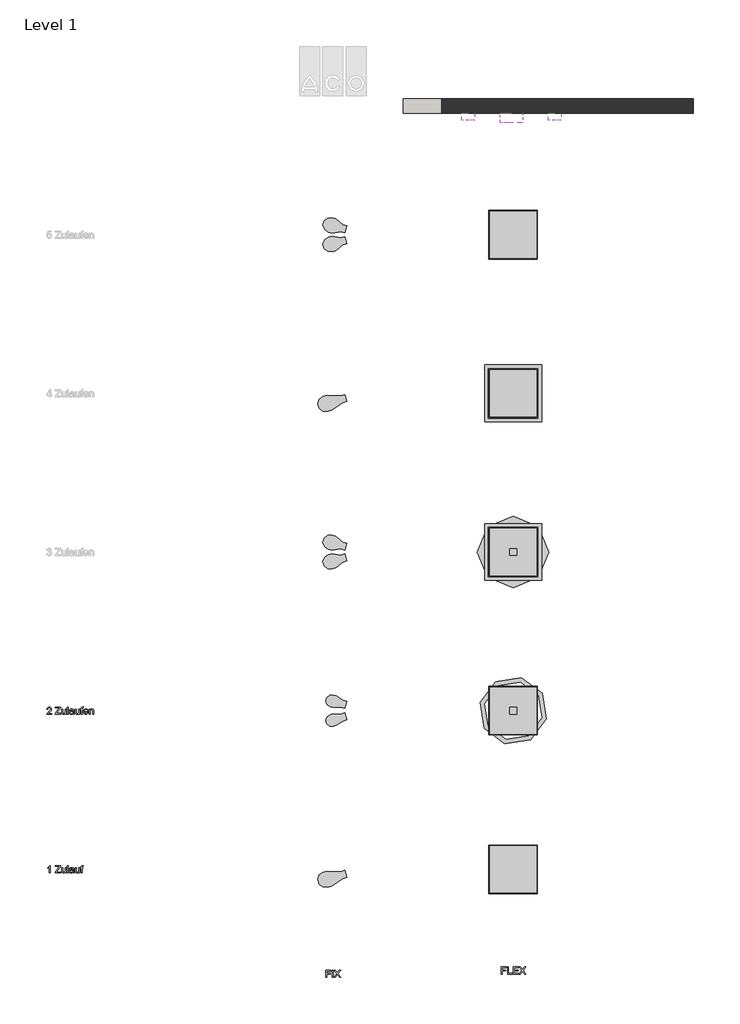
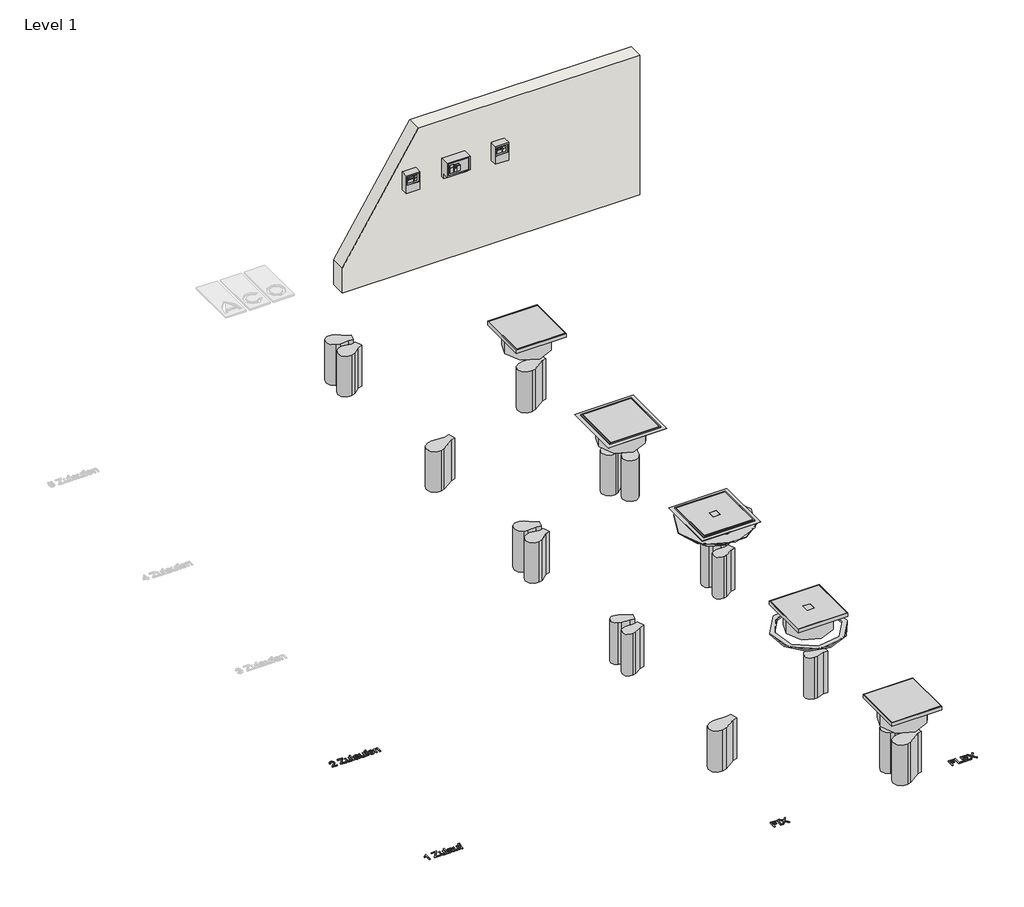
# One storey, part 1 of 2: 23 unitary equipment elements, 4 proxies, 3 electric distribution boards, 1 wall.
"""IFC4 building model written with IfcOpenShell, lengths in millimetres."""

from ifc_helpers import new_model, si_unit, frame, origin, origin_with_axes, place, context, project, spatial, polyline, outline, extrude, transform, mapped, element, save
from components import electric_distribution_board_6bfaa667, duo_03331a0b, std_nested_5e5e7294, std_nested_2262afc0, std_nested_d96b53c7, std_nested_3f7b8610, std_nested_a3c687c5, std_nested_62343fa4, std_nested_5edb1bc4, std_nested_ef40863d, std_nested_00d3e785, std_nested_2ecfbaac, std_nested_c9297620, std_nested_613c7ef1

model = new_model("IFC4")

# Units and contexts
model_context = context("Model", 3, world=origin())
ifc_project = project(units=[si_unit("LENGTHUNIT", "METRE", prefix="MILLI")], contexts=[model_context])

# Site, building, storey
site = spatial("IfcSite", under=ifc_project)
building = spatial("IfcBuilding", under=site)
storey = spatial("IfcBuildingStorey", under=building, Name="Level 1", Elevation=0.0)

# Proxies
placement = place(None, origin())
element("IfcBuildingElementProxy", 1, Name="100mm ACO", ObjectType="100mm ACO", at=placement, inside=storey, context=model_context, shape_type="SweptSolid", body=[
    extrude(outline(polyline([(-2918.8676439, 400.0), (-2931.9063734, 400.0), (-2931.9063734, 478.2323775), (-2956.1211569, 463.3309722), (-2956.1211569, 472.6443505), (-2937.741787, 484.4315949), (-2926.3183465, 498.7218097), (-2918.8676439, 498.7218097), (-2918.8676439, 400.0)])), origin_with_axes(), (0.0, 0.0, 1.0), 10.0),
    extrude(outline(polyline([(-2773.5789428, 400.0), (-2853.673996, 400.0), (-2853.673996, 411.7290358), (-2801.8683293, 477.242831), (-2798.2157388, 481.8122072), (-2791.3907788, 489.4084314), (-2848.085969, 489.4084314), (-2848.085969, 500.5844853), (-2775.4416185, 500.5844853), (-2775.4416185, 489.4084314), (-2832.1950173, 418.5103393), (-2838.2778175, 411.1760539), (-2773.5789428, 411.1760539), (-2773.5789428, 400.0)])), origin_with_axes(), (0.0, 0.0, 1.0), 10.0),
    extrude(outline(polyline([(-2700.9345923, 400.0), (-2712.1106463, 400.0), (-2712.1106463, 410.5648635), (-2722.413571, 401.2442091), (-2735.4523005, 398.1373243), (-2749.6552024, 401.6734977), (-2758.3573902, 411.4088884), (-2760.5402133, 427.5035702), (-2760.5402133, 472.6443505), (-2747.5014837, 472.6443505), (-2747.5014837, 431.4326517), (-2746.5992502, 417.2588541), (-2741.8843524, 410.2156118), (-2732.8038086, 407.4507026), (-2719.9833613, 412.3984348), (-2715.4758318, 419.994659), (-2713.9733219, 432.887867), (-2713.9733219, 472.6443505), (-2700.9345923, 472.6443505), (-2700.9345923, 400.0)])), origin_with_axes(), (0.0, 0.0, 1.0), 10.0),
    extrude(outline(polyline([(-2669.2691062, 400.0), (-2682.3078358, 400.0), (-2682.3078358, 500.5844853), (-2669.2691062, 500.5844853), (-2669.2691062, 400.0)])), origin_with_axes(), (0.0, 0.0, 1.0), 10.0),
    extrude(outline(polyline([(-2587.3113774, 400.0), (-2600.350107, 400.0), (-2604.0754583, 408.7895007), (-2616.6412429, 400.8003684), (-2630.1820218, 398.1373243), (-2640.2266458, 399.5925397), (-2647.8919926, 403.9581858), (-2652.7487739, 410.710385), (-2654.367701, 419.3252599), (-2652.7815162, 427.6818341), (-2648.022962, 434.4158431), (-2639.3426024, 439.3381091), (-2625.9910016, 442.2594539), (-2614.5821132, 444.0057123), (-2604.0754583, 446.5668914), (-2604.4101578, 454.6433366), (-2606.3601464, 459.5474123), (-2611.5552652, 463.6365675), (-2621.1887909, 465.1936479), (-2633.3398391, 462.0358306), (-2639.4662957, 450.2922427), (-2652.5050253, 451.8929795), (-2648.9288336, 461.7593397), (-2642.2166528, 468.8316863), (-2632.3757589, 473.0881912), (-2619.4134282, 474.5070262), (-2600.0445118, 470.6216012), (-2592.4482876, 461.2500143), (-2591.0367287, 447.1198732), (-2591.0367287, 430.5013138), (-2590.4837469, 410.1282989), (-2587.3113774, 400.0)]), holes=[polyline([(-2604.0754583, 432.5968239), (-2604.0754583, 437.2535131), (-2627.4898734, 431.8983206), (-2637.8691969, 427.8164415), (-2641.3289714, 419.5289901), (-2637.6036201, 410.8559065), (-2626.8641308, 407.4507026), (-2610.9586269, 413.1551468), (-2605.7962505, 420.8677882), (-2604.0754583, 432.5968239)])]), origin_with_axes(), (0.0, 0.0, 1.0), 10.0),
    extrude(outline(polyline([(-2512.8043513, 400.0), (-2523.9804052, 400.0), (-2523.9804052, 410.5648635), (-2534.2833299, 401.2442091), (-2547.3220595, 398.1373243), (-2561.5249613, 401.6734977), (-2570.2271492, 411.4088884), (-2572.4099722, 427.5035702), (-2572.4099722, 472.6443505), (-2559.3712426, 472.6443505), (-2559.3712426, 431.4326517), (-2558.4690091, 417.2588541), (-2553.7541114, 410.2156118), (-2544.6735675, 407.4507026), (-2531.8531203, 412.3984348), (-2527.3455907, 419.994659), (-2525.8430808, 432.887867), (-2525.8430808, 472.6443505), (-2512.8043513, 472.6443505), (-2512.8043513, 400.0)])), origin_with_axes(), (0.0, 0.0, 1.0), 10.0),
    extrude(outline(polyline([(-2460.649433, 501.4867188), (-2462.2501698, 493.1337827), (-2468.5949088, 493.1337827), (-2474.9396477, 490.9946161), (-2477.4135138, 480.4152005), (-2477.4135138, 472.6443505), (-2466.2374599, 472.6443505), (-2466.2374599, 463.3309722), (-2477.4135138, 463.3309722), (-2477.4135138, 400.0), (-2490.4522434, 400.0), (-2490.4522434, 463.3309722), (-2501.6282973, 463.3309722), (-2501.6282973, 472.6443505), (-2490.4522434, 472.6443505), (-2490.4522434, 480.6189307), (-2489.4772491, 490.6599166), (-2484.3403389, 498.8091226), (-2471.5053395, 502.447161), (-2460.649433, 501.4867188)])), origin_with_axes(), (0.0, 0.0, 1.0), 10.0),
])
element("IfcBuildingElementProxy", 2, Name="100mm ACO", ObjectType="100mm ACO", at=placement, inside=storey, context=model_context, shape_type="SweptSolid", body=[
    extrude(outline(polyline([(969.2658517, -960.5915686), (915.2482577, -960.5915686), (915.2482577, -992.2570547), (961.8151491, -992.2570547), (961.8151491, -1003.4331086), (915.2482577, -1003.4331086), (915.2482577, -1050.0), (902.2095282, -1050.0), (902.2095282, -949.4155147), (969.2658517, -949.4155147), (969.2658517, -960.5915686)])), origin_with_axes(), (0.0, 0.0, 1.0), 10.0),
    extrude(outline(polyline([(1002.7940135, -1050.0), (989.7552839, -1050.0), (989.7552839, -949.4155147), (1002.7940135, -949.4155147), (1002.7940135, -1050.0)])), origin_with_axes(), (0.0, 0.0, 1.0), 10.0),
    extrude(outline(polyline([(1108.9665258, -1050.0), (1093.2501999, -1050.0), (1072.2077859, -1021.3031532), (1063.0981378, -1008.4972581), (1031.7236947, -1050.0), (1015.8327431, -1050.0), (1055.0071404, -997.7868731), (1019.5580944, -949.4155147), (1035.2744202, -949.4155147), (1057.6847367, -980.0041414), (1062.9235119, -987.1929053), (1091.2420027, -949.4155147), (1107.1038501, -949.4155147), (1070.7816749, -997.874186), (1108.9665258, -1050.0)])), origin_with_axes(), (0.0, 0.0, 1.0), 10.0),
])
element("IfcBuildingElementProxy", 3, Name="100mm ACO", ObjectType="100mm ACO", at=placement, inside=storey, context=model_context, shape_type="SweptSolid", body=[
    extrude(outline(polyline([(3403.140866, -915.462788), (3349.123272, -915.462788), (3349.123272, -947.1282741), (3395.6901634, -947.1282741), (3395.6901634, -958.304328), (3349.123272, -958.304328), (3349.123272, -1004.8712193), (3336.0845424, -1004.8712193), (3336.0845424, -904.286734), (3403.140866, -904.286734), (3403.140866, -915.462788)])), origin_with_axes(), (0.0, 0.0, 1.0), 10.0),
    extrude(outline(polyline([(3485.0985948, -1004.8712193), (3421.7676225, -1004.8712193), (3421.7676225, -904.286734), (3434.8063521, -904.286734), (3434.8063521, -993.6951654), (3485.0985948, -993.6951654), (3485.0985948, -1004.8712193)])), origin_with_axes(), (0.0, 0.0, 1.0), 10.0),
    extrude(outline(polyline([(3574.5070262, -1004.8712193), (3500.0, -1004.8712193), (3500.0, -904.286734), (3572.6443505, -904.286734), (3572.6443505, -915.462788), (3513.0387296, -915.462788), (3513.0387296, -947.1282741), (3568.9189992, -947.1282741), (3568.9189992, -958.304328), (3513.0387296, -958.304328), (3513.0387296, -993.6951654), (3574.5070262, -993.6951654), (3574.5070262, -1004.8712193)])), origin_with_axes(), (0.0, 0.0, 1.0), 10.0),
    extrude(outline(polyline([(3675.0915115, -1004.8712193), (3659.3751857, -1004.8712193), (3638.3327716, -976.1743726), (3629.2231235, -963.3684774), (3597.8486805, -1004.8712193), (3581.9577288, -1004.8712193), (3621.1321261, -952.6580924), (3585.6830801, -904.286734), (3601.3994059, -904.286734), (3623.8097224, -934.8753608), (3629.0484977, -942.0641246), (3657.3669885, -904.286734), (3673.2288358, -904.286734), (3636.9066606, -952.7454053), (3675.0915115, -1004.8712193)])), origin_with_axes(), (0.0, 0.0, 1.0), 10.0),
])
element("IfcBuildingElementProxy", 4, Name="100mm ACO", ObjectType="100mm ACO", at=placement, inside=storey, context=model_context, shape_type="SweptSolid", body=[
    extrude(outline(polyline([(-2902.103563, 2600.0), (-2969.1598865, 2600.0), (-2963.1643993, 2615.6872215), (-2941.0160216, 2637.4281389), (-2923.145977, 2654.8616189), (-2917.1432137, 2663.9421627), (-2915.1422925, 2673.0809151), (-2920.5993501, 2686.1196447), (-2934.3802395, 2691.271107), (-2948.4958285, 2686.1341968), (-2952.7887138, 2679.7276112), (-2954.2584813, 2670.7816749), (-2967.2972109, 2672.1786816), (-2964.1393935, 2684.351558), (-2957.0524948, 2693.2793042), (-2946.7786744, 2698.75819), (-2934.0600922, 2700.5844853), (-2920.6248164, 2698.4853372), (-2910.5292599, 2692.1878927), (-2904.2099872, 2682.921809), (-2902.103563, 2671.9167428), (-2903.8643735, 2661.9557937), (-2909.1468053, 2651.8638752), (-2936.7376884, 2624.1856792), (-2952.3958056, 2609.3133783), (-2902.103563, 2609.3133783), (-2902.103563, 2600.0)])), origin_with_axes(), (0.0, 0.0, 1.0), 10.0),
    extrude(outline(polyline([(-2773.5789428, 2600.0), (-2853.673996, 2600.0), (-2853.673996, 2611.7290358), (-2801.8683293, 2677.242831), (-2798.2157388, 2681.8122072), (-2791.3907788, 2689.4084314), (-2848.085969, 2689.4084314), (-2848.085969, 2700.5844853), (-2775.4416185, 2700.5844853), (-2775.4416185, 2689.4084314), (-2832.1950173, 2618.5103393), (-2838.2778175, 2611.1760539), (-2773.5789428, 2611.1760539), (-2773.5789428, 2600.0)])), origin_with_axes(), (0.0, 0.0, 1.0), 10.0),
    extrude(outline(polyline([(-2700.9345923, 2600.0), (-2712.1106463, 2600.0), (-2712.1106463, 2610.5648635), (-2722.413571, 2601.2442091), (-2735.4523005, 2598.1373243), (-2749.6552024, 2601.6734977), (-2758.3573902, 2611.4088884), (-2760.5402133, 2627.5035702), (-2760.5402133, 2672.6443505), (-2747.5014837, 2672.6443505), (-2747.5014837, 2631.4326517), (-2746.5992502, 2617.2588541), (-2741.8843524, 2610.2156118), (-2732.8038086, 2607.4507026), (-2719.9833613, 2612.3984348), (-2715.4758318, 2619.994659), (-2713.9733219, 2632.887867), (-2713.9733219, 2672.6443505), (-2700.9345923, 2672.6443505), (-2700.9345923, 2600.0)])), origin_with_axes(), (0.0, 0.0, 1.0), 10.0),
    extrude(outline(polyline([(-2669.2691062, 2600.0), (-2682.3078358, 2600.0), (-2682.3078358, 2700.5844853), (-2669.2691062, 2700.5844853), (-2669.2691062, 2600.0)])), origin_with_axes(), (0.0, 0.0, 1.0), 10.0),
    extrude(outline(polyline([(-2587.3113774, 2600.0), (-2600.350107, 2600.0), (-2604.0754583, 2608.7895007), (-2616.6412429, 2600.8003684), (-2630.1820218, 2598.1373243), (-2640.2266458, 2599.5925397), (-2647.8919926, 2603.9581858), (-2652.7487739, 2610.710385), (-2654.367701, 2619.3252599), (-2652.7815162, 2627.6818341), (-2648.022962, 2634.4158431), (-2639.3426024, 2639.3381091), (-2625.9910016, 2642.2594539), (-2614.5821132, 2644.0057123), (-2604.0754583, 2646.5668914), (-2604.4101578, 2654.6433366), (-2606.3601464, 2659.5474123), (-2611.5552652, 2663.6365675), (-2621.1887909, 2665.1936479), (-2633.3398391, 2662.0358306), (-2639.4662957, 2650.2922427), (-2652.5050253, 2651.8929795), (-2648.9288336, 2661.7593397), (-2642.2166528, 2668.8316863), (-2632.3757589, 2673.0881912), (-2619.4134282, 2674.5070262), (-2600.0445118, 2670.6216012), (-2592.4482876, 2661.2500143), (-2591.0367287, 2647.1198732), (-2591.0367287, 2630.5013138), (-2590.4837469, 2610.1282989), (-2587.3113774, 2600.0)]), holes=[polyline([(-2604.0754583, 2632.5968239), (-2604.0754583, 2637.2535131), (-2627.4898734, 2631.8983206), (-2637.8691969, 2627.8164415), (-2641.3289714, 2619.5289901), (-2637.6036201, 2610.8559065), (-2626.8641308, 2607.4507026), (-2610.9586269, 2613.1551468), (-2605.7962505, 2620.8677882), (-2604.0754583, 2632.5968239)])]), origin_with_axes(), (0.0, 0.0, 1.0), 10.0),
    extrude(outline(polyline([(-2512.8043513, 2600.0), (-2523.9804052, 2600.0), (-2523.9804052, 2610.5648635), (-2534.2833299, 2601.2442091), (-2547.3220595, 2598.1373243), (-2561.5249613, 2601.6734977), (-2570.2271492, 2611.4088884), (-2572.4099722, 2627.5035702), (-2572.4099722, 2672.6443505), (-2559.3712426, 2672.6443505), (-2559.3712426, 2631.4326517), (-2558.4690091, 2617.2588541), (-2553.7541114, 2610.2156118), (-2544.6735675, 2607.4507026), (-2531.8531203, 2612.3984348), (-2527.3455907, 2619.994659), (-2525.8430808, 2632.887867), (-2525.8430808, 2672.6443505), (-2512.8043513, 2672.6443505), (-2512.8043513, 2600.0)])), origin_with_axes(), (0.0, 0.0, 1.0), 10.0),
    extrude(outline(polyline([(-2460.649433, 2701.4867188), (-2462.2501698, 2693.1337827), (-2468.5949088, 2693.1337827), (-2474.9396477, 2690.9946161), (-2477.4135138, 2680.4152005), (-2477.4135138, 2672.6443505), (-2466.2374599, 2672.6443505), (-2466.2374599, 2663.3309722), (-2477.4135138, 2663.3309722), (-2477.4135138, 2600.0), (-2490.4522434, 2600.0), (-2490.4522434, 2663.3309722), (-2501.6282973, 2663.3309722), (-2501.6282973, 2672.6443505), (-2490.4522434, 2672.6443505), (-2490.4522434, 2680.6189307), (-2489.4772491, 2690.6599166), (-2484.3403389, 2698.8091226), (-2471.5053395, 2702.447161), (-2460.649433, 2701.4867188)])), origin_with_axes(), (0.0, 0.0, 1.0), 10.0),
    extrude(outline(polyline([(-2391.7304338, 2633.5281618), (-2445.7480277, 2633.5281618), (-2443.6634317, 2622.3375557), (-2438.9230677, 2614.1446932), (-2432.1017457, 2609.1242003), (-2423.7742759, 2607.4507026), (-2412.030688, 2611.1615018), (-2404.7691633, 2622.3521078), (-2391.7304338, 2620.8386839), (-2396.1324602, 2611.1615018), (-2403.1102178, 2604.0163944), (-2412.4090439, 2599.6070919), (-2423.7742759, 2598.1373243), (-2438.4464847, 2600.6584849), (-2449.5170355, 2608.2219668), (-2456.4693268, 2620.1510946), (-2458.7867573, 2635.7691934), (-2456.5530017, 2651.3982063), (-2449.851735, 2663.7675368), (-2439.0904175, 2671.8221538), (-2424.6765094, 2674.5070262), (-2409.3676439, 2671.0290615), (-2396.867344, 2659.1836085), (-2393.0146613, 2648.5860027), (-2391.7304338, 2633.5281618)]), holes=[polyline([(-2404.7691633, 2642.84154), (-2406.8646734, 2653.0571518), (-2411.6377798, 2659.9548726), (-2424.9966568, 2665.1936479), (-2432.8984761, 2663.6365675), (-2439.2577672, 2658.9653262), (-2445.7480277, 2642.84154), (-2404.7691633, 2642.84154)])]), origin_with_axes(), (0.0, 0.0, 1.0), 10.0),
    extrude(outline(polyline([(-2317.2234076, 2600.0), (-2330.2621372, 2600.0), (-2330.2621372, 2645.2280932), (-2334.1475622, 2660.9153147), (-2344.9598123, 2665.1936479), (-2355.0444547, 2662.457843), (-2361.7966539, 2654.7452016), (-2363.7902989, 2640.658717), (-2363.7902989, 2600.0), (-2376.8290285, 2600.0), (-2376.8290285, 2672.6443505), (-2365.6529746, 2672.6443505), (-2365.6529746, 2662.5451559), (-2355.6993016, 2671.5238347), (-2342.3695289, 2674.5070262), (-2330.9315362, 2672.4406204), (-2322.0838269, 2666.2559551), (-2318.0528803, 2657.4664544), (-2317.2234076, 2644.8497372), (-2317.2234076, 2600.0)])), origin_with_axes(), (0.0, 0.0, 1.0), 10.0),
])

# Electric distribution boards
electric_distribution_board_shape = electric_distribution_board_6bfaa667(model_context)
element("IfcElectricDistributionBoard", 5, ObjectType="EE_UN_controls muliflex_ACO : Mono Modbus pressure alarm", at=placement, inside=storey, context=model_context, shape_type="MappedRepresentation", body=[
    mapped(electric_distribution_board_shape, transform((4076.8275645, 10934.9137074, 1200.0), x_axis=(1.0, 0.0, 0.0), y_axis=(0.0, 1.0, 0.0), z_axis=(0.0, 0.0, 1.0))),
])
duo_shape = duo_03331a0b(model_context)
element("IfcElectricDistributionBoard", 6, ObjectType="EE_UN_controls muliflex_ACO : Duo", at=placement, inside=storey, context=model_context, shape_type="MappedRepresentation", body=[
    mapped(duo_shape, transform((3476.8275645, 10934.9137074, 1200.0), x_axis=(1.0, 0.0, 0.0), y_axis=(0.0, 1.0, 0.0), z_axis=(0.0, 0.0, 1.0))),
])
element("IfcElectricDistributionBoard", 7, ObjectType="EE_UN_controls muliflex_ACO : Mono", at=placement, inside=storey, context=model_context, shape_type="MappedRepresentation", body=[
    mapped(electric_distribution_board_shape, transform((2876.8275645, 10934.9137074, 1200.0), x_axis=(1.0, 0.0, 0.0), y_axis=(0.0, 1.0, 0.0), z_axis=(0.0, 0.0, 1.0))),
])

# Unitary equipment
std_nested_shape = std_nested_5e5e7294(model_context)
element("IfcUnitaryEquipment", 8, ObjectType="ZZZ_do not use_ME_WPB_flange muliflex_ACO -SH : std (nested)", at=placement, inside=storey, context=model_context, shape_type="MappedRepresentation", body=[
    mapped(std_nested_shape, transform((3500.0, 2650.0, -295.0), x_axis=(0.9702957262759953, -0.24192189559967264, 0.0), y_axis=(0.24192189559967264, 0.9702957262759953, 0.0), z_axis=(0.0, 0.0, 1.0))),
])
std_nested_2_shape = std_nested_2262afc0(model_context)
element("IfcUnitaryEquipment", 9, ObjectType="ZZZ_do not use_ME_WPB_pump muliflex_ACO -SH : std (nested)", at=placement, inside=storey, context=model_context, shape_type="MappedRepresentation", body=[
    mapped(std_nested_2_shape, transform((1000.0, 450.0, 0.0), x_axis=(1.0, 0.0, 0.0), y_axis=(0.0, 1.0, 0.0), z_axis=(0.0, 0.0, 1.0))),
])
element("IfcUnitaryEquipment", 10, ObjectType="ZZZ_do not use_ME_WPB_pump muliflex_ACO -SH : std (nested)", at=placement, inside=storey, context=model_context, shape_type="MappedRepresentation", body=[
    mapped(std_nested_2_shape, transform((1000.0, 7050.0, 0.0), x_axis=(1.0, 0.0, 0.0), y_axis=(0.0, 1.0, 0.0), z_axis=(0.0, 0.0, 1.0))),
])
element("IfcUnitaryEquipment", 11, ObjectType="ZZZ_do not use_ME_WPB_pump muliflex_ACO -SH : std (nested)", at=placement, inside=storey, context=model_context, shape_type="MappedRepresentation", body=[
    mapped(std_nested_2_shape, transform((3500.0, 450.0, -1070.0), x_axis=(1.0, 0.0, 0.0), y_axis=(0.0, 1.0, 0.0), z_axis=(0.0, 0.0, 1.0))),
])
element("IfcUnitaryEquipment", 12, ObjectType="ZZZ_do not use_ME_WPB_pump muliflex_ACO -SH : std (nested)", at=placement, inside=storey, context=model_context, shape_type="MappedRepresentation", body=[
    mapped(std_nested_2_shape, transform((3500.0, 9250.0, -1070.0), x_axis=(1.0, 0.0, 0.0), y_axis=(0.0, 1.0, 0.0), z_axis=(0.0, 0.0, 1.0))),
])
std_nested_3_shape = std_nested_d96b53c7(model_context)
element("IfcUnitaryEquipment", 13, ObjectType="ZZZ_do not use_ME_WPB_pump muliflex_ACO -SH : std (nested)", at=placement, inside=storey, context=model_context, shape_type="MappedRepresentation", body=[
    mapped(std_nested_3_shape, transform((1000.0, 2650.0, 0.0), x_axis=(1.0, 0.0, 0.0), y_axis=(0.0, 1.0, 0.0), z_axis=(0.0, 0.0, 1.0))),
])
element("IfcUnitaryEquipment", 14, ObjectType="ZZZ_do not use_ME_WPB_pump muliflex_ACO -SH : std (nested)", at=placement, inside=storey, context=model_context, shape_type="MappedRepresentation", body=[
    mapped(std_nested_3_shape, transform((3500.0, 4850.0, -1107.9504909), x_axis=(1.0, 0.0, 0.0), y_axis=(0.0, 1.0, 0.0), z_axis=(0.0, 0.0, 1.0))),
])
std_nested_4_shape = std_nested_3f7b8610(model_context)
element("IfcUnitaryEquipment", 15, ObjectType="ZZZ_do not use_ME_WPB_pump muliflex_ACO -SH : std (nested)", at=placement, inside=storey, context=model_context, shape_type="MappedRepresentation", body=[
    mapped(std_nested_4_shape, transform((1000.0, 2650.0, 0.0), x_axis=(1.0, 0.0, 0.0), y_axis=(0.0, 1.0, 0.0), z_axis=(0.0, 0.0, 1.0))),
])
element("IfcUnitaryEquipment", 16, ObjectType="ZZZ_do not use_ME_WPB_pump muliflex_ACO -SH : std (nested)", at=placement, inside=storey, context=model_context, shape_type="MappedRepresentation", body=[
    mapped(std_nested_4_shape, transform((3500.0, 2650.0, -1205.0), x_axis=(0.9702957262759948, -0.24192189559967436, 0.0), y_axis=(0.24192189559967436, 0.9702957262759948, 0.0), z_axis=(0.0, 0.0, 1.0))),
])
element("IfcUnitaryEquipment", 17, ObjectType="ZZZ_do not use_ME_WPB_pump muliflex_ACO -SH : std (nested)", at=placement, inside=storey, context=model_context, shape_type="MappedRepresentation", body=[
    mapped(std_nested_4_shape, transform((3500.0, 4850.0, -1107.9504909), x_axis=(1.0, 0.0, 0.0), y_axis=(0.0, 1.0, 0.0), z_axis=(0.0, 0.0, 1.0))),
])
std_nested_5_shape = std_nested_a3c687c5(model_context)
element("IfcUnitaryEquipment", 18, ObjectType="ZZZ_do not use_ME_WPB_pump muliflex_ACO -SH : std (nested)", at=placement, inside=storey, context=model_context, shape_type="MappedRepresentation", body=[
    mapped(std_nested_5_shape, transform((1000.0, 4850.0, 0.0), x_axis=(1.0, 0.0, 0.0), y_axis=(0.0, 1.0, 0.0), z_axis=(0.0, 0.0, 1.0))),
])
element("IfcUnitaryEquipment", 19, ObjectType="ZZZ_do not use_ME_WPB_pump muliflex_ACO -SH : std (nested)", at=placement, inside=storey, context=model_context, shape_type="MappedRepresentation", body=[
    mapped(std_nested_5_shape, transform((1000.0, 9250.0, 0.0), x_axis=(1.0, 0.0, 0.0), y_axis=(0.0, 1.0, 0.0), z_axis=(0.0, 0.0, 1.0))),
])
element("IfcUnitaryEquipment", 20, ObjectType="ZZZ_do not use_ME_WPB_pump muliflex_ACO -SH : std (nested)", at=placement, inside=storey, context=model_context, shape_type="MappedRepresentation", body=[
    mapped(std_nested_5_shape, transform((3500.0, 7050.0, -1070.0), x_axis=(0.8191520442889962, 0.5735764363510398, 0.0), y_axis=(-0.5735764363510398, 0.8191520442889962, 0.0), z_axis=(0.0, 0.0, 1.0))),
])
std_nested_6_shape = std_nested_62343fa4(model_context)
element("IfcUnitaryEquipment", 21, ObjectType="ZZZ_do not use_ME_WPB_pump muliflex_ACO -SH : std (nested)", at=placement, inside=storey, context=model_context, shape_type="MappedRepresentation", body=[
    mapped(std_nested_6_shape, transform((1000.0, 4850.0, 0.0), x_axis=(1.0, 0.0, 0.0), y_axis=(0.0, 1.0, 0.0), z_axis=(0.0, 0.0, 1.0))),
])
element("IfcUnitaryEquipment", 22, ObjectType="ZZZ_do not use_ME_WPB_pump muliflex_ACO -SH : std (nested)", at=placement, inside=storey, context=model_context, shape_type="MappedRepresentation", body=[
    mapped(std_nested_6_shape, transform((1000.0, 9250.0, 0.0), x_axis=(1.0, 0.0, 0.0), y_axis=(0.0, 1.0, 0.0), z_axis=(0.0, 0.0, 1.0))),
])
element("IfcUnitaryEquipment", 23, ObjectType="ZZZ_do not use_ME_WPB_pump muliflex_ACO -SH : std (nested)", at=placement, inside=storey, context=model_context, shape_type="MappedRepresentation", body=[
    mapped(std_nested_6_shape, transform((3500.0, 7050.0, -1070.0), x_axis=(0.8191520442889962, 0.5735764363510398, 0.0), y_axis=(-0.5735764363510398, 0.8191520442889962, 0.0), z_axis=(0.0, 0.0, 1.0))),
])
std_nested_7_shape = std_nested_5edb1bc4(model_context)
element("IfcUnitaryEquipment", 24, ObjectType="ZZZ_do not use_ME_WPB_pump muliflex_ACO -SH : std (nested)", at=placement, inside=storey, context=model_context, shape_type="MappedRepresentation", body=[
    mapped(std_nested_7_shape, transform((3500.0, 450.0, -1070.0), x_axis=(1.0, 0.0, 0.0), y_axis=(0.0, 1.0, 0.0), z_axis=(0.0, 0.0, 1.0))),
])
std_nested_8_shape = std_nested_ef40863d(model_context)
element("IfcUnitaryEquipment", 25, ObjectType="ZZZ_do not use_ME_WPB_top section muliflex_ACO -SH : std (nested)", at=placement, inside=storey, context=model_context, shape_type="MappedRepresentation", body=[
    mapped(std_nested_8_shape, transform((3500.0, 450.0, 0.0), x_axis=(1.0, 0.0, 0.0), y_axis=(0.0, 1.0, 0.0), z_axis=(0.0, 0.0, 1.0))),
])
element("IfcUnitaryEquipment", 26, ObjectType="ZZZ_do not use_ME_WPB_top section muliflex_ACO -SH : std (nested)", at=placement, inside=storey, context=model_context, shape_type="MappedRepresentation", body=[
    mapped(std_nested_8_shape, transform((3500.0, 9250.0, 0.0), x_axis=(1.0, 0.0, 0.0), y_axis=(0.0, 1.0, 0.0), z_axis=(0.0, 0.0, 1.0))),
])
std_nested_9_shape = std_nested_00d3e785(model_context)
element("IfcUnitaryEquipment", 27, ObjectType="ZZZ_do not use_ME_WPB_top section muliflex_ACO -SH : std (nested)", at=placement, inside=storey, context=model_context, shape_type="MappedRepresentation", body=[
    mapped(std_nested_9_shape, transform((3500.0, 2650.0, 0.0), x_axis=(1.0, 0.0, 0.0), y_axis=(0.0, 1.0, 0.0), z_axis=(0.0, 0.0, 1.0))),
])
std_nested_10_shape = std_nested_2ecfbaac(model_context)
element("IfcUnitaryEquipment", 28, ObjectType="ZZZ_do not use_ME_WPB_top section muliflex_ACO -SH : std (nested)", at=placement, inside=storey, context=model_context, shape_type="MappedRepresentation", body=[
    mapped(std_nested_10_shape, transform((3500.0, 4850.0, 0.0), x_axis=(1.0, 0.0, 0.0), y_axis=(0.0, 1.0, 0.0), z_axis=(0.0, 0.0, 1.0))),
])
std_nested_11_shape = std_nested_c9297620(model_context)
element("IfcUnitaryEquipment", 29, ObjectType="ZZZ_do not use_ME_WPB_top section muliflex_ACO -SH : std (nested)", at=placement, inside=storey, context=model_context, shape_type="MappedRepresentation", body=[
    mapped(std_nested_11_shape, transform((3500.0, 7050.0, 0.0), x_axis=(1.0, 0.0, 0.0), y_axis=(0.0, 1.0, 0.0), z_axis=(0.0, 0.0, 1.0))),
])
std_nested_12_shape = std_nested_613c7ef1(model_context)
element("IfcUnitaryEquipment", 30, ObjectType="ZZZ_do not use_ME_WPB_flange muliflex_ACO -SH : std (nested)", at=placement, inside=storey, context=model_context, shape_type="MappedRepresentation", body=[
    mapped(std_nested_12_shape, transform((3500.0, 4850.0, -107.9504909), x_axis=(1.0, 0.0, 0.0), y_axis=(0.0, 1.0, 0.0), z_axis=(0.0, 0.0, 1.0))),
])

# Wall
element("IfcWall", 31, ObjectType="Wall 1", at=placement, inside=storey, context=model_context, shape_type="SweptSolid", body=[
    extrude(outline(polyline([(0.0, 1976.8275645), (0.0, 6000.0), (2000.0, 6000.0), (2000.0, 3001.6133017), (360.0, 1976.8275645), (0.0, 1976.8275645)])), frame((0.0, 10934.9137074, 0.0), z_axis=(0.0, 1.0, 0.0), x_axis=(0.0, 0.0, 1.0)), (0.0, 0.0, 1.0), 200.0),
])

save(model, "model.ifc")
